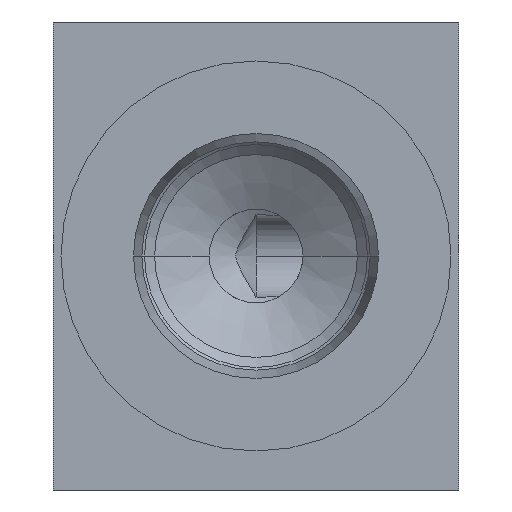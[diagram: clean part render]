
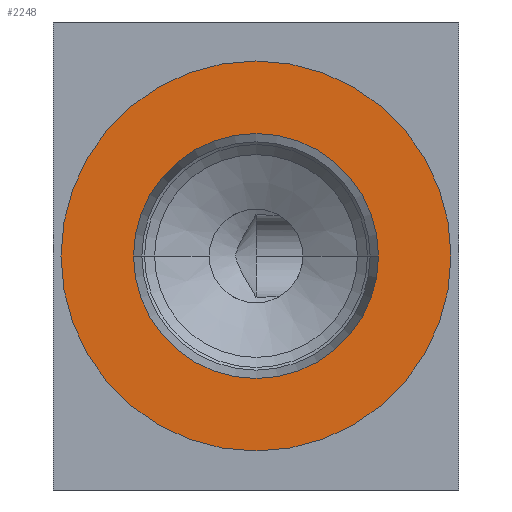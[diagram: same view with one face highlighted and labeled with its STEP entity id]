
A CAD part, left-side view. The second image highlights one B-rep face of the part: STEP entity #2248.
In plain terms, the highlighted planar face has unit normal (-1, 0, 0).
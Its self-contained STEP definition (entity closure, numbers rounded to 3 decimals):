
#832=CARTESIAN_POINT('',(1.,13.,15.));
#833=DIRECTION('',(-1.,0.,0.));
#834=DIRECTION('',(0.,-1.,0.));
#835=AXIS2_PLACEMENT_3D('',#832,#833,#834);
#840=CARTESIAN_POINT('',(1.,13.,15.));
#841=DIRECTION('',(1.,0.,0.));
#842=DIRECTION('',(0.,-1.,0.));
#843=AXIS2_PLACEMENT_3D('',#840,#841,#842);
#848=CARTESIAN_POINT('',(1.,13.,15.));
#849=DIRECTION('',(1.,0.,0.));
#850=DIRECTION('',(0.,-1.,0.));
#851=AXIS2_PLACEMENT_3D('',#848,#849,#850);
#870=CARTESIAN_POINT('',(1.,13.,15.));
#871=DIRECTION('',(-1.,0.,0.));
#872=DIRECTION('',(0.,-1.,0.));
#873=AXIS2_PLACEMENT_3D('',#870,#871,#872);
#1373=CARTESIAN_POINT('',(1.,5.15,15.));
#1375=VERTEX_POINT('',#1373);
#1381=CARTESIAN_POINT('',(1.,20.85,15.));
#1383=VERTEX_POINT('',#1381);
#1389=CARTESIAN_POINT('',(1.,0.5,15.));
#1390=CARTESIAN_POINT('',(1.,25.5,15.));
#1391=VERTEX_POINT('',#1389);
#1392=VERTEX_POINT('',#1390);
#2233=CARTESIAN_POINT('',(1.,13.,15.));
#2234=DIRECTION('',(1.,0.,0.));
#2235=DIRECTION('',(0.,-1.,0.));
#2236=AXIS2_PLACEMENT_3D('',#2233,#2234,#2235);
#2237=PLANE('',#2236);
#2238=ORIENTED_EDGE('',*,*,#2226,.F.);
#2239=ORIENTED_EDGE('',*,*,#2215,.T.);
#2240=EDGE_LOOP('',(#2238,#2239));
#2241=FACE_OUTER_BOUND('',#2240,.F.);
#2243=ORIENTED_EDGE('',*,*,#2242,.F.);
#2245=ORIENTED_EDGE('',*,*,#2244,.T.);
#2246=EDGE_LOOP('',(#2243,#2245));
#2247=FACE_BOUND('',#2246,.F.);
#836=CIRCLE('',#835,12.5);
#844=CIRCLE('',#843,12.5);
#852=CIRCLE('',#851,7.85);
#874=CIRCLE('',#873,7.85);
#2215=EDGE_CURVE('',#1391,#1392,#844,.T.);
#2226=EDGE_CURVE('',#1391,#1392,#836,.T.);
#2242=EDGE_CURVE('',#1375,#1383,#852,.T.);
#2244=EDGE_CURVE('',#1375,#1383,#874,.T.);
#2248=ADVANCED_FACE('',(#2241,#2247),#2237,.F.);
